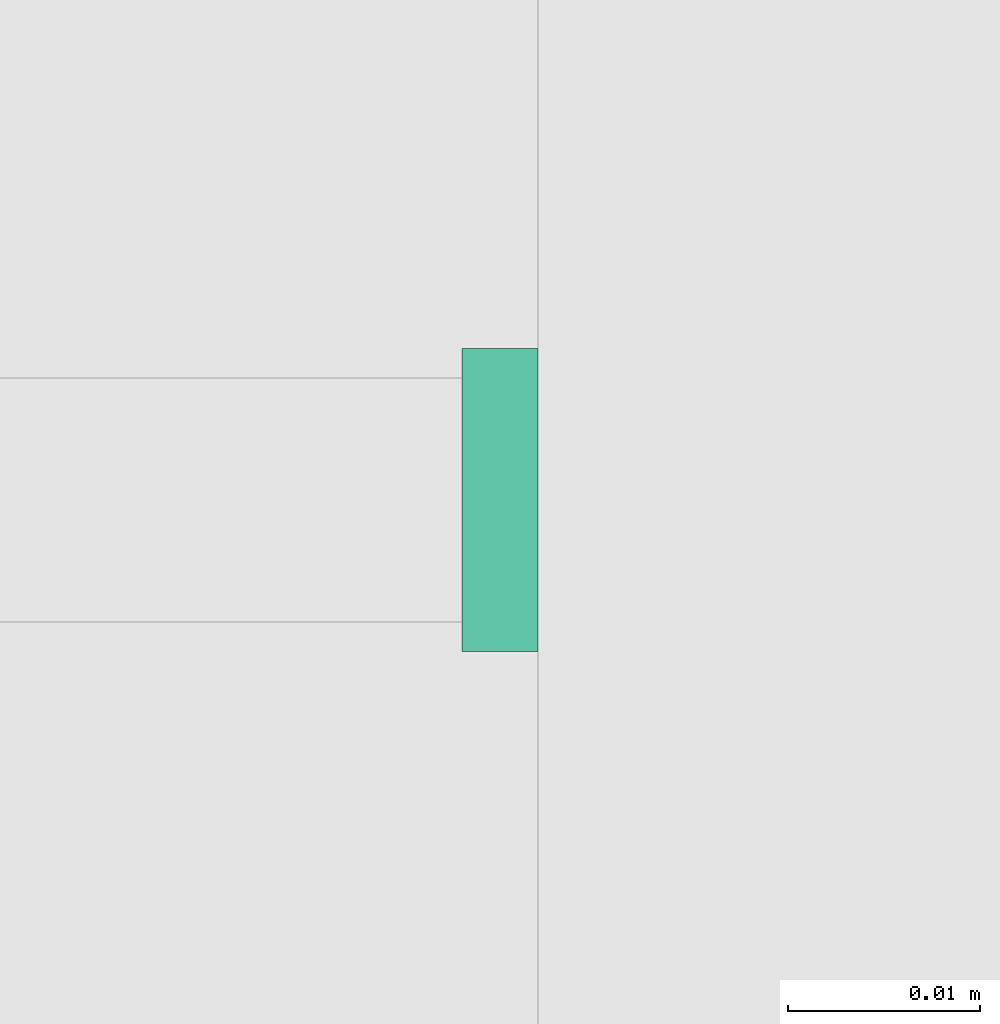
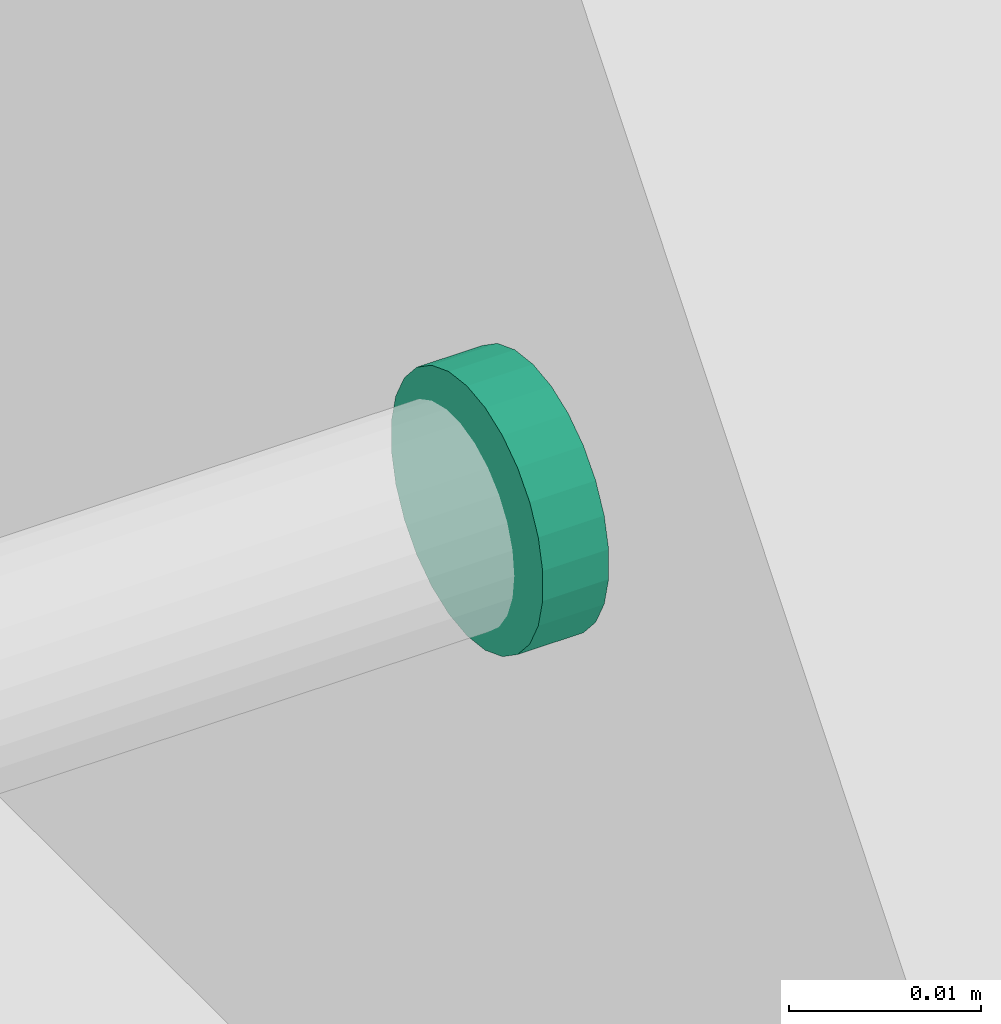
# One storey, part 12 of 24: 1 flow fitting.
"""IFC2X3 building model written with IfcOpenShell, lengths in millimetres."""

from ifc_helpers import new_model, entity, si_unit, converted_unit, derived_unit, direction, frame, origin, origin_2d_with_axis, place, context, subcontext, project, spatial, circle, extrude, source, transform, mapped, material, type_object, type_shapes, element, save


model = new_model("IFC2X3")

# Units and contexts
model_context = context("Model", 3, precision=0.01, world=origin(), true_north=direction((6.123031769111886e-17, 1.0)))
body_context = subcontext(model_context, "Body", "Model", "MODEL_VIEW")
ifc_project = project(units=[si_unit("LENGTHUNIT", "METRE", prefix="MILLI"), si_unit("AREAUNIT", "SQUARE_METRE"), si_unit("VOLUMEUNIT", "CUBIC_METRE"), converted_unit("PLANEANGLEUNIT", "DEGREE", entity("IfcRatioMeasure", 0.017453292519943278), si_unit("PLANEANGLEUNIT", "RADIAN"), dimensions=[0, 0, 0, 0, 0, 0, 0]), si_unit("MASSUNIT", "GRAM", prefix="KILO"), derived_unit("MASSDENSITYUNIT", [(si_unit("MASSUNIT", "GRAM", prefix="KILO"), 1), (si_unit("LENGTHUNIT", "METRE"), -3)]), derived_unit("MOMENTOFINERTIAUNIT", [(si_unit("LENGTHUNIT", "METRE"), 4)]), si_unit("TIMEUNIT", "SECOND"), si_unit("FREQUENCYUNIT", "HERTZ"), si_unit("THERMODYNAMICTEMPERATUREUNIT", "DEGREE_CELSIUS"), derived_unit("THERMALTRANSMITTANCEUNIT", [(si_unit("MASSUNIT", "GRAM", prefix="KILO"), 1), (si_unit("THERMODYNAMICTEMPERATUREUNIT", "KELVIN"), -1), (si_unit("TIMEUNIT", "SECOND"), -3)]), derived_unit("VOLUMETRICFLOWRATEUNIT", [(si_unit("LENGTHUNIT", "METRE"), 3), (si_unit("TIMEUNIT", "SECOND"), -1)]), derived_unit("MASSFLOWRATEUNIT", [(si_unit("MASSUNIT", "GRAM", prefix="KILO"), 1), (si_unit("TIMEUNIT", "SECOND"), -1)]), derived_unit("ROTATIONALFREQUENCYUNIT", [(si_unit("TIMEUNIT", "SECOND"), -1)]), si_unit("ELECTRICCURRENTUNIT", "AMPERE"), si_unit("ELECTRICVOLTAGEUNIT", "VOLT"), si_unit("POWERUNIT", "WATT"), si_unit("FORCEUNIT", "NEWTON", prefix="KILO"), si_unit("ILLUMINANCEUNIT", "LUX"), si_unit("LUMINOUSFLUXUNIT", "LUMEN"), si_unit("LUMINOUSINTENSITYUNIT", "CANDELA"), derived_unit("USERDEFINED", [(si_unit("MASSUNIT", "GRAM", prefix="KILO"), -1), (si_unit("LENGTHUNIT", "METRE"), -2), (si_unit("TIMEUNIT", "SECOND"), 3), (si_unit("LUMINOUSFLUXUNIT", "LUMEN"), 1)]), derived_unit("SOUNDPOWERUNIT", [(si_unit("MASSUNIT", "GRAM", prefix="KILO"), 1), (si_unit("LENGTHUNIT", "METRE"), 2), (si_unit("TIMEUNIT", "SECOND"), -3)]), derived_unit("SOUNDPRESSUREUNIT", [(si_unit("MASSUNIT", "GRAM", prefix="KILO"), 1), (si_unit("LENGTHUNIT", "METRE"), -1), (si_unit("TIMEUNIT", "SECOND"), -2)]), derived_unit("LINEARVELOCITYUNIT", [(si_unit("LENGTHUNIT", "METRE"), 1), (si_unit("TIMEUNIT", "SECOND"), -1)]), si_unit("PRESSUREUNIT", "PASCAL"), derived_unit("USERDEFINED", [(si_unit("LENGTHUNIT", "METRE"), -2), (si_unit("MASSUNIT", "GRAM", prefix="KILO"), 1), (si_unit("TIMEUNIT", "SECOND"), -2)]), derived_unit("LINEARFORCEUNIT", [(si_unit("MASSUNIT", "GRAM", prefix="KILO"), 1), (si_unit("LENGTHUNIT", "METRE"), 1), (si_unit("TIMEUNIT", "SECOND"), -2), (si_unit("LENGTHUNIT", "METRE"), -1)]), derived_unit("PLANARFORCEUNIT", [(si_unit("MASSUNIT", "GRAM", prefix="KILO"), 1), (si_unit("LENGTHUNIT", "METRE"), 1), (si_unit("TIMEUNIT", "SECOND"), -2), (si_unit("LENGTHUNIT", "METRE"), -2)])], contexts=[model_context])

# Site, building, storey
site_placement = place(None, origin())
site = spatial("IfcSite", under=ifc_project, at=site_placement, Name="Default", CompositionType="ELEMENT")
building_placement = place(site_placement, origin())
building = spatial("IfcBuilding", under=site, at=building_placement, CompositionType="ELEMENT")
storey_placement = place(building_placement, origin())
storey = spatial("IfcBuildingStorey", under=building, at=storey_placement, Name="Level 1", CompositionType="ELEMENT", Elevation=0.0)

# Flow fitting
ifc_material = material(Name="<Unnamed>")
pipe_fitting_type = type_object("IfcPipeFittingType", Name="M_Transition - Generic:Standard:Standard : M_Transition - Generic:Standard", PredefinedType="NOTDEFINED", material=ifc_material)
shared_shape = source(origin(), body_context, "Body", "SweptSolid", [
    extrude(circle(Radius=7.937500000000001, at=origin_2d_with_axis()), frame((-2376.07868921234, -2573.89659357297, 2710.0), z_axis=(1.0, 0.0, 0.0), x_axis=(0.0, 0.0, 1.0)), (0.0, 0.0, 1.0), 3.96874999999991),
])
type_shapes(pipe_fitting_type, [shared_shape])
flow_fitting_placement = place(storey_placement, origin())
element("IfcFlowFitting", 1, at=flow_fitting_placement, inside=storey, type_object=pipe_fitting_type, material=ifc_material, Name="M_Transition - Generic:Standard:Standard : M_Transition - Generic:Standard:Standard:Standard : M_Transition - Generic:Standard : M_Transition - Generic:Standard:Standard : M_Transition - Generic:Standard", ObjectType="M_Transition - Generic:Standard:Standard : M_Transition - Generic:Standard:Standard:Standard : M_Transition - Generic:Standard : M_Transition - Generic:Standard:Standard : M_Transition - Generic:Standard", context=body_context, shape_type="MappedRepresentation", body=[
    mapped(shared_shape, transform((0.0, 0.0, 0.0), scale=1.0)),
])

save(model, "model.ifc")
